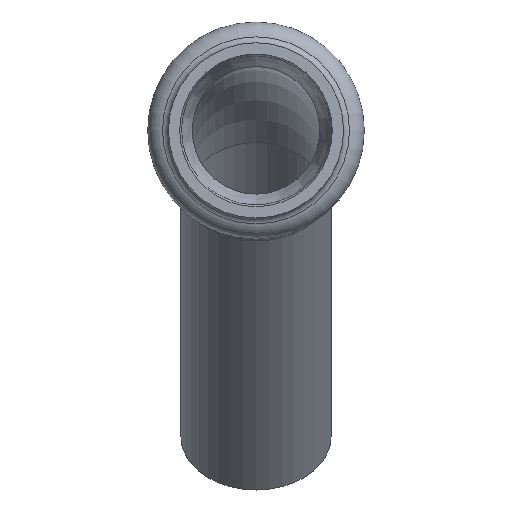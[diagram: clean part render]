
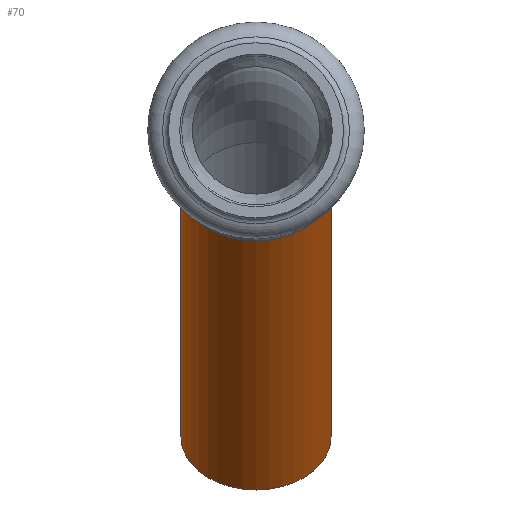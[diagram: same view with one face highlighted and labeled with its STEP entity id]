
A CAD part, front view. The second image highlights one B-rep face of the part: STEP entity #70.
In plain terms, the highlighted cylindrical face has radius 9 mm (diameter 18 mm), a full revolution.
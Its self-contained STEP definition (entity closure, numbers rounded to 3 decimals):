
#70=ADVANCED_FACE('',(#219,#221),#223,.T.);
#219=FACE_OUTER_BOUND('',#220,.T.);
#220=EDGE_LOOP('',(#295));
#221=FACE_OUTER_BOUND('',#222,.T.);
#222=EDGE_LOOP('',(#296));
#223=CYLINDRICAL_SURFACE('',#224,9.);
#224=AXIS2_PLACEMENT_3D('',#225,#226,#227);
#225=CARTESIAN_POINT('',(0.,48.883,-6.883));
#226=DIRECTION('',(0.,0.707,-0.707));
#227=DIRECTION('',(-1.,0.,0.));
#295=ORIENTED_EDGE('',*,*,#341,.F.);
#296=ORIENTED_EDGE('',*,*,#343,.T.);
#341=EDGE_CURVE('',#391,#391,#392,.T.);
#343=EDGE_CURVE('',#395,#395,#396,.T.);
#391=VERTEX_POINT('',#497);
#392=CIRCLE('',#498,9.);
#395=VERTEX_POINT('',#507);
#396=CIRCLE('',#508,9.);
#497=CARTESIAN_POINT('',(-9.,78.77,-36.77));
#498=AXIS2_PLACEMENT_3D('',#499,#500,#501);
#499=CARTESIAN_POINT('',(0.,78.77,-36.77));
#500=DIRECTION('',(0.,0.707,-0.707));
#501=DIRECTION('',(-1.,0.,0.));
#507=CARTESIAN_POINT('',(-9.,48.883,-6.883));
#508=AXIS2_PLACEMENT_3D('',#509,#510,#511);
#509=CARTESIAN_POINT('',(0.,48.883,-6.883));
#510=DIRECTION('',(0.,0.707,-0.707));
#511=DIRECTION('',(-1.,0.,0.));
